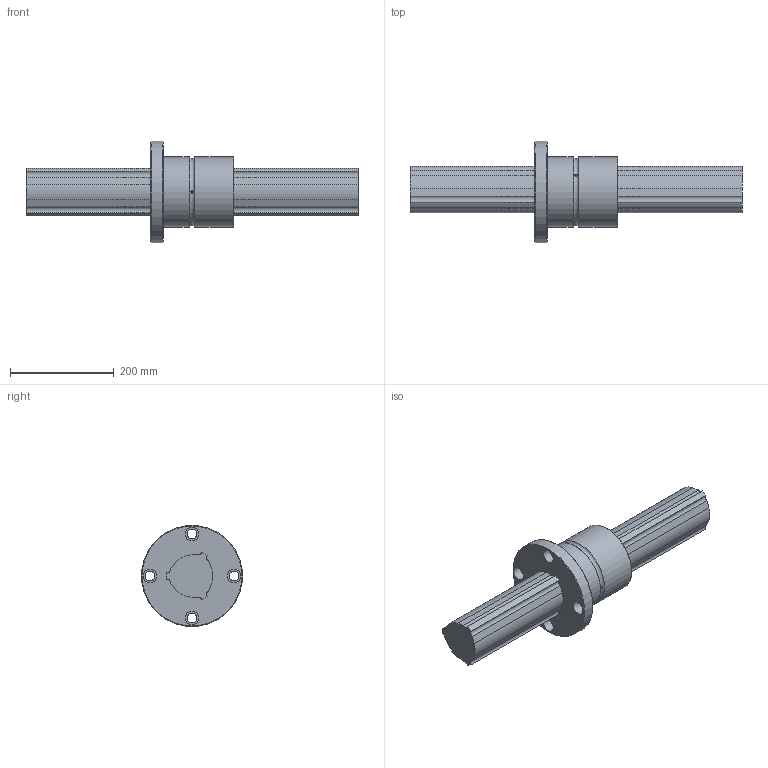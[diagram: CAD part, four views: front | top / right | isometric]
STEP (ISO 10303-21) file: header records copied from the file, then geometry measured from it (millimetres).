
FILE_DESCRIPTION(/* description */ ('STEP AP203'),/* implementation_level */ '2;1');
FILE_NAME(/* name */ 'LBF100+640L(6402400)',/* time_stamp */ '2024-05-28T03:41:06+02:00',/* author */ ('License CC BY-ND 4.0'),/* organization */ ('CADENAS'),/* preprocessor_version */ 'ST-DEVELOPER v19.3',/* originating_system */ 'PARTsolutions',/* authorisation */ ' ');
FILE_SCHEMA (('CONFIG_CONTROL_DESIGN'));
Length unit declared in the file: millimetre
Products named in the file (3): LBF100+640L(6402400); LBF1001640 Spline Shaft; LBF100 Nut
Assembly tree (2 placements, depth 2):
  LBF100+640L(6402400)
    LBF1001640 Spline Shaft
    LBF100 Nut
Bounding box: 640 x 195 x 195 mm (x, y, z)
Volume: 5353415.9 mm3; surface area: 372277 mm2
Topology: 2 solids, 2 shells, 66 faces, 164 edges, 110 vertices
Faces by surface type: cylinder 38, plane 24, torus 2, cone 2
Full cylindrical faces by diameter (mm): 5 x3, 18 x4, 26 x4, 135 x2, 195 x1
Entity records: 1978 total; most frequent: CARTESIAN_POINT 353, DIRECTION 350, ORIENTED_EDGE 278, AXIS2_PLACEMENT_3D 145, EDGE_CURVE 139, VERTEX_POINT 103, EDGE_LOOP 102, FACE_BOUND 102
